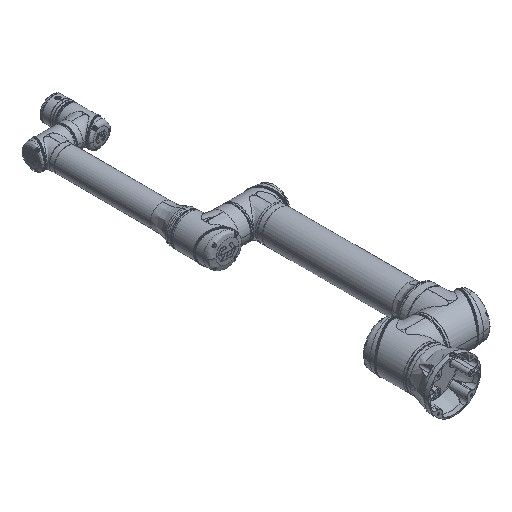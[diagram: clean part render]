
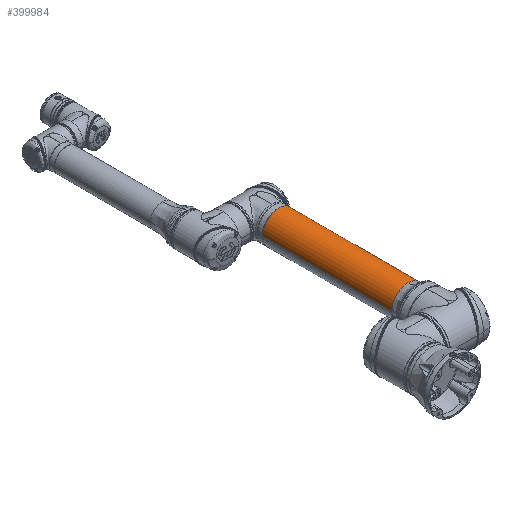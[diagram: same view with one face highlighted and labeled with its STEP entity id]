
A CAD part, isometric view. The second image highlights one B-rep face of the part: STEP entity #399984.
In plain terms, the highlighted cylindrical face has radius 59 mm (diameter 118 mm), a partial arc.
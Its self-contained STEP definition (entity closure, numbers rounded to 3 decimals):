
#13231 = ORIENTED_EDGE ( 'NONE', *, *, #380552, .T. ) ;
#30879 = CARTESIAN_POINT ( 'NONE',  ( 632.1, 0., 0. ) ) ;
#31359 = ORIENTED_EDGE ( 'NONE', *, *, #531859, .T. ) ;
#39171 = EDGE_CURVE ( 'NONE', #263565, #173270, #100218, .T. ) ;
#51301 = CARTESIAN_POINT ( 'NONE',  ( 158.463, -59., 0. ) ) ;
#52038 = ORIENTED_EDGE ( 'NONE', *, *, #52222, .T. ) ;
#52222 = EDGE_CURVE ( 'NONE', #104283, #434974, #172752, .T. ) ;
#92004 = VERTEX_POINT ( 'NONE', #51301 ) ;
#100218 = LINE ( 'NONE', #103335, #292195 ) ;
#103335 = CARTESIAN_POINT ( 'NONE',  ( 562.7, 0., 59. ) ) ;
#104283 = VERTEX_POINT ( 'NONE', #161459 ) ;
#130475 = CARTESIAN_POINT ( 'NONE',  ( 632.1, 0., 59. ) ) ;
#161262 = AXIS2_PLACEMENT_3D ( 'NONE', #492729, #533474, #496370 ) ;
#161459 = CARTESIAN_POINT ( 'NONE',  ( 158.463, 0., -59. ) ) ;
#163095 = DIRECTION ( 'NONE',  ( 1., 0., 0. ) ) ;
#172752 = LINE ( 'NONE', #289080, #517987 ) ;
#173270 = VERTEX_POINT ( 'NONE', #130475 ) ;
#201090 = DIRECTION ( 'NONE',  ( 0., 0., -1. ) ) ;
#201307 = DIRECTION ( 'NONE',  ( 0., 0., -1. ) ) ;
#201585 = DIRECTION ( 'NONE',  ( 0., 0., -1. ) ) ;
#204366 = CYLINDRICAL_SURFACE ( 'NONE', #502693, 59. ) ;
#235009 = CIRCLE ( 'NONE', #460312, 59. ) ;
#241845 = CARTESIAN_POINT ( 'NONE',  ( 158.463, 0., 0. ) ) ;
#256401 = CARTESIAN_POINT ( 'NONE',  ( 632.1, 0., -59. ) ) ;
#263565 = VERTEX_POINT ( 'NONE', #373989 ) ;
#272793 = AXIS2_PLACEMENT_3D ( 'NONE', #30879, #496154, #201307 ) ;
#272915 = ORIENTED_EDGE ( 'NONE', *, *, #378442, .T. ) ;
#279443 = DIRECTION ( 'NONE',  ( 1., 0., 0. ) ) ;
#289080 = CARTESIAN_POINT ( 'NONE',  ( 562.7, 0., -59. ) ) ;
#292195 = VECTOR ( 'NONE', #312726, 1000. ) ;
#312726 = DIRECTION ( 'NONE',  ( 1., 0., 0. ) ) ;
#343585 = FACE_OUTER_BOUND ( 'NONE', #367614, .T. ) ;
#351975 = ORIENTED_EDGE ( 'NONE', *, *, #39171, .F. ) ;
#367614 = EDGE_LOOP ( 'NONE', ( #351975, #31359, #272915, #52038, #13231 ) ) ;
#373989 = CARTESIAN_POINT ( 'NONE',  ( 158.463, 0., 59. ) ) ;
#378442 = EDGE_CURVE ( 'NONE', #92004, #104283, #235009, .T. ) ;
#380552 = EDGE_CURVE ( 'NONE', #434974, #173270, #453749, .T. ) ;
#399984 = ADVANCED_FACE ( 'NONE', ( #343585 ), #204366, .T. ) ;
#414218 = DIRECTION ( 'NONE',  ( 1., 0., 0. ) ) ;
#425216 = CIRCLE ( 'NONE', #161262, 59. ) ;
#434974 = VERTEX_POINT ( 'NONE', #256401 ) ;
#453749 = CIRCLE ( 'NONE', #272793, 59. ) ;
#460312 = AXIS2_PLACEMENT_3D ( 'NONE', #241845, #414218, #201090 ) ;
#492729 = CARTESIAN_POINT ( 'NONE',  ( 158.463, 0., 0. ) ) ;
#496154 = DIRECTION ( 'NONE',  ( -1., 0., 0. ) ) ;
#496370 = DIRECTION ( 'NONE',  ( 0., 0., -1. ) ) ;
#496443 = CARTESIAN_POINT ( 'NONE',  ( 562.7, 0., 0. ) ) ;
#502693 = AXIS2_PLACEMENT_3D ( 'NONE', #496443, #279443, #201585 ) ;
#517987 = VECTOR ( 'NONE', #163095, 1000. ) ;
#531859 = EDGE_CURVE ( 'NONE', #263565, #92004, #425216, .T. ) ;
#533474 = DIRECTION ( 'NONE',  ( 1., 0., 0. ) ) ;
